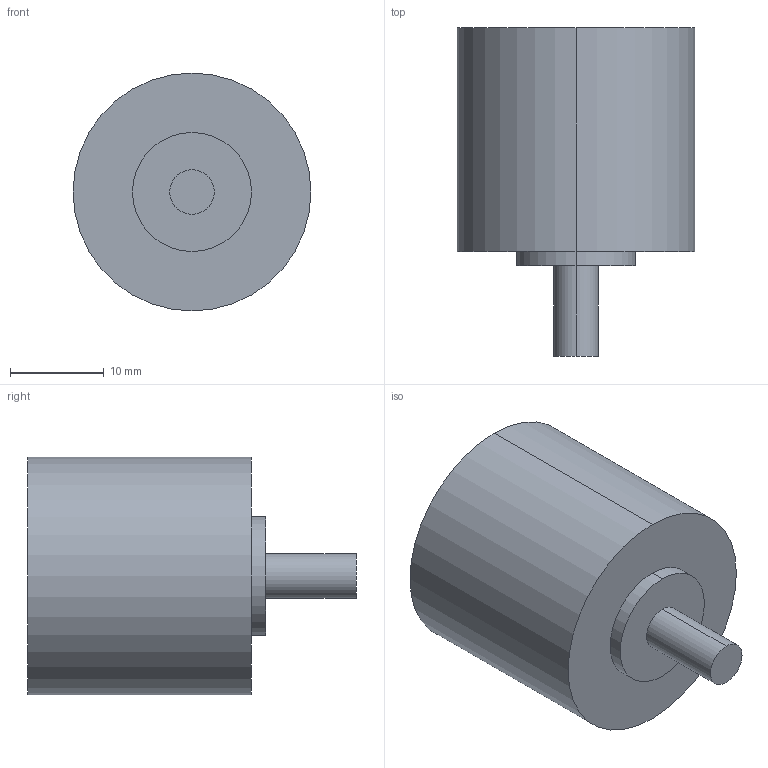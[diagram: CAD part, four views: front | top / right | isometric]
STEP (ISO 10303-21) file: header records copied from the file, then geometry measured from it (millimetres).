
FILE_DESCRIPTION (( 'STEP AP214' ), '1' );
FILE_NAME ('SS1432-50KG-M-F.STEP', '2024-09-04T16:21:00', ( '' ), ( '' ), 'SwSTEP 2.0', 'SolidWorks 2008', '' );
FILE_SCHEMA (( 'AUTOMOTIVE_DESIGN' ));
Length unit declared in the file: inch
Products named in the file (1): SS1432-50KG-M-F
Bounding box: 25.4 x 35.05 x 25.4 mm (x, y, z)
Volume: 12396.1 mm3; surface area: 3187.2 mm2
Topology: 1 solids, 1 shells, 14 faces, 28 edges, 17 vertices
Faces by surface type: cylinder 8, plane 4, cone 2
Entity records: 411 total; most frequent: DIRECTION 72, CARTESIAN_POINT 58, ORIENTED_EDGE 52, AXIS2_PLACEMENT_3D 31, EDGE_CURVE 26, VERTEX_POINT 17, EDGE_LOOP 17, CIRCLE 16
